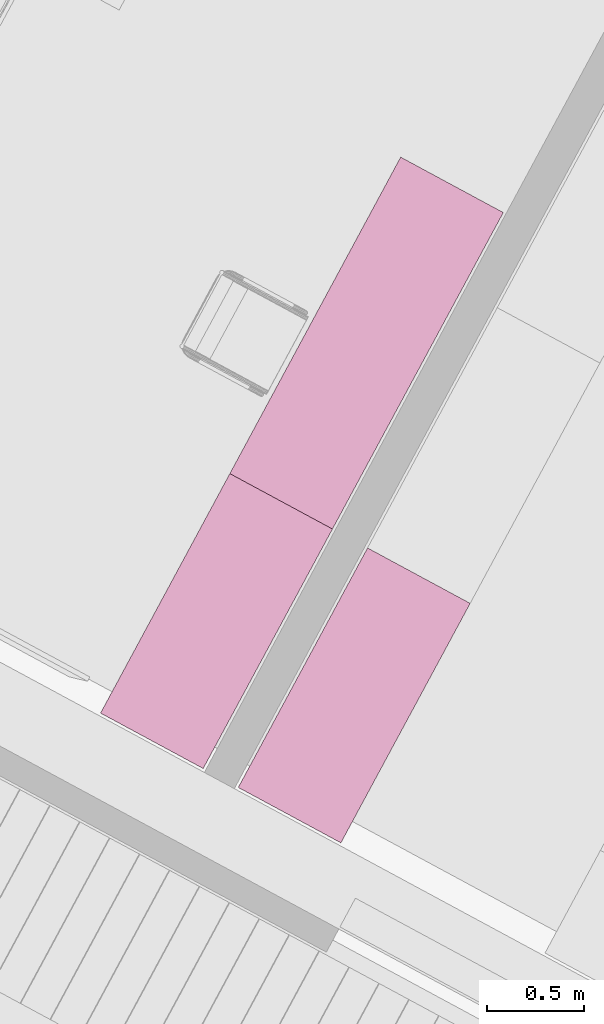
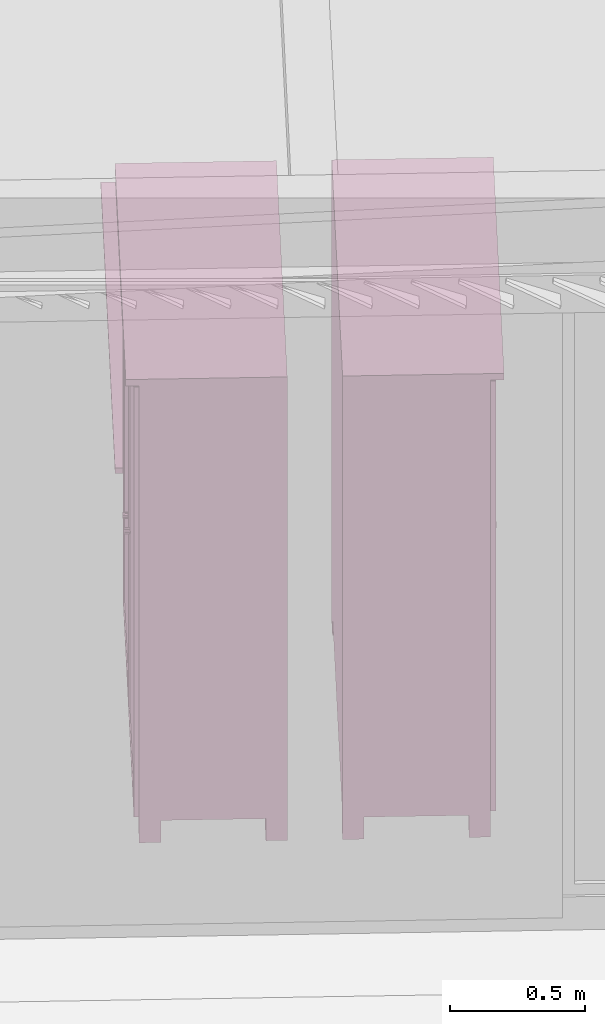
# One storey, part 28 of 48: 3 furnishings.
"""IFC2X3 building model written with IfcOpenShell, lengths in metres."""

from ifc_helpers import new_model, entity, si_unit, converted_unit, derived_unit, money_unit, direction, frame, origin_with_axes, place, context, subcontext, project, spatial, faceted_brep, type_object, element, save


model = new_model("IFC2X3")

# Units and contexts
model_context = context("Model", 3, precision=1e-05, world=origin_with_axes(), true_north=direction((0.0, 1.0)))
body_context = subcontext(model_context, "Body", "Model", "MODEL_VIEW")
ifc_project = project(units=[si_unit("LENGTHUNIT", "METRE"), si_unit("AREAUNIT", "SQUARE_METRE"), si_unit("VOLUMEUNIT", "CUBIC_METRE"), converted_unit("PLANEANGLEUNIT", "DEGREE", entity("IfcPlaneAngleMeasure", 0.0174532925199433), si_unit("PLANEANGLEUNIT", "RADIAN"), dimensions=[0, 0, 0, 0, 0, 0, 0]), money_unit("EUR"), converted_unit("TIMEUNIT", "Year", entity("IfcTimeMeasure", 31556926.0), si_unit("TIMEUNIT", "SECOND"), dimensions=[0, 0, 1, 0, 0, 0, 0]), si_unit("MASSUNIT", "GRAM", prefix="KILO"), si_unit("THERMODYNAMICTEMPERATUREUNIT", "DEGREE_CELSIUS"), si_unit("LUMINOUSINTENSITYUNIT", "LUMEN"), si_unit("ENERGYUNIT", "JOULE", prefix="MEGA"), derived_unit("THERMALCONDUCTANCEUNIT", [(si_unit("POWERUNIT", "WATT"), 1), (si_unit("LENGTHUNIT", "METRE"), -1), (si_unit("THERMODYNAMICTEMPERATUREUNIT", "KELVIN"), -1)]), derived_unit("SPECIFICHEATCAPACITYUNIT", [(si_unit("ENERGYUNIT", "JOULE"), 1), (si_unit("MASSUNIT", "GRAM", prefix="KILO"), -1), (si_unit("THERMODYNAMICTEMPERATUREUNIT", "KELVIN"), -1)]), derived_unit("MASSDENSITYUNIT", [(si_unit("MASSUNIT", "GRAM", prefix="KILO"), 1), (si_unit("VOLUMEUNIT", "CUBIC_METRE"), -1)])], contexts=[model_context])

# Site, building, storey
site_placement = place(None, frame((-3.949935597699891, 1.740105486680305, 0.0), z_axis=(0.0, 0.0, 1.0), x_axis=(0.8799804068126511, -0.475009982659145, 0.0)))
site = spatial("IfcSite", under=ifc_project, at=site_placement, Name="Gelände", CompositionType="ELEMENT")
building_placement = place(site_placement, origin_with_axes())
building = spatial("IfcBuilding", under=site, at=building_placement, Name="Gebäude", CompositionType="ELEMENT")
storey_placement = place(building_placement, frame((0.0, 0.0, 4.55), z_axis=(0.0, 0.0, 1.0), x_axis=(1.0, 0.0, 0.0)))
storey = spatial("IfcBuildingStorey", under=building, at=storey_placement, Name="Staffelgeschoss", CompositionType="ELEMENT", Elevation=4.55)

# Furnishings
furnishing_element_type_1 = type_object("IfcFurnishingElementType", Name="Kleiderschrank 22")
furnishing_1_placement = place(storey_placement, frame((10.81819561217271, 3.039987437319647, 0.0), z_axis=(0.0, 0.0, 1.0), x_axis=(0.0, -1.0, 0.0)))
element("IfcFurnishingElement", 1, at=furnishing_1_placement, inside=storey, type_object=furnishing_element_type_1, Name="Objekt-0066", context=body_context, shape_type="Brep", body=[
    faceted_brep([(0.02000000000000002, 0.6000000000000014, 0.12), (0.02000000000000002, 0.5800000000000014, 0.12), (0.02000000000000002, 0.5800000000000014, 2.05), (0.02000000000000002, 0.6000000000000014, 2.05), (1.38, 0.6000000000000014, 0.12), (1.38, 0.5800000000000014, 0.12), (1.38, 0.5800000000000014, 2.05), (1.38, 0.6000000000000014, 2.05)], [[[0, 1, 2, 3]], [[0, 4, 5, 1]], [[1, 5, 6, 2]], [[3, 2, 6, 7]], [[4, 0, 3, 7]], [[5, 4, 7, 6]]]),
    faceted_brep([(1.4, 0.05000000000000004, 0.1), (1.38, 0.05000000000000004, 0.1), (1.38, 0.6000000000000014, 0.1), (1.4, 0.6000000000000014, 0.1), (1.4, 0.05000000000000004, 2.07), (1.38, 0.05000000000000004, 2.07), (1.38, 0.6000000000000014, 2.07), (1.4, 0.6000000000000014, 2.07)], [[[0, 1, 2, 3]], [[1, 0, 4, 5]], [[2, 1, 5, 6]], [[3, 2, 6, 7]], [[0, 3, 7, 4]], [[5, 4, 7, 6]]]),
    faceted_brep([(0.02, 0.05000000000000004, 0.1), (0.0, 0.05000000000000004, 0.1), (0.0, 0.6000000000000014, 0.1), (0.02, 0.6000000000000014, 0.1), (0.02, 0.05000000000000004, 2.07), (0.0, 0.05000000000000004, 2.07), (0.0, 0.6000000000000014, 2.07), (0.02, 0.6000000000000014, 2.07)], [[[0, 1, 2, 3]], [[1, 0, 4, 5]], [[2, 1, 5, 6]], [[3, 2, 6, 7]], [[0, 3, 7, 4]], [[5, 4, 7, 6]]]),
    faceted_brep([(1.38, 0.05000000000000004, 0.1), (0.02000000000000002, 0.05000000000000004, 0.1), (0.02000000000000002, 0.6000000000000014, 0.1), (1.38, 0.6000000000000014, 0.1), (1.38, 0.05000000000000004, 0.12), (0.02000000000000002, 0.05000000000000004, 0.12), (0.02000000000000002, 0.6000000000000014, 0.12), (1.38, 0.6000000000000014, 0.12)], [[[0, 1, 2, 3]], [[1, 0, 4, 5]], [[2, 1, 5, 6]], [[3, 2, 6, 7]], [[0, 3, 7, 4]], [[5, 4, 7, 6]]]),
    faceted_brep([(1.38, 0.05000000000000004, 2.05), (0.02000000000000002, 0.05000000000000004, 2.05), (0.02000000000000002, 0.6000000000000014, 2.05), (1.38, 0.6000000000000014, 2.05), (1.38, 0.05000000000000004, 2.07), (0.02000000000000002, 0.05000000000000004, 2.07), (0.02000000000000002, 0.6000000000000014, 2.07), (1.38, 0.6000000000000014, 2.07)], [[[0, 1, 2, 3]], [[1, 0, 4, 5]], [[2, 1, 5, 6]], [[3, 2, 6, 7]], [[0, 3, 7, 4]], [[5, 4, 7, 6]]]),
    faceted_brep([(1.4, 0.6000000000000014, 2.07), (1.4, 0.6000000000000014, 2.1), (1.4, 0.0, 2.1), (1.4, 0.0, 2.07), (0.0, 0.6000000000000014, 2.07), (0.0, 0.6000000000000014, 2.1), (0.0, 0.0, 2.1), (0.0, 0.0, 2.07)], [[[0, 1, 2, 3]], [[4, 5, 1, 0]], [[1, 5, 6, 2]], [[3, 2, 6, 7]], [[0, 3, 7, 4]], [[7, 6, 5, 4]]]),
    faceted_brep([(0.08000000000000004, 0.5200000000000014, 0.0), (0.08000000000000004, 0.6000000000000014, 0.0), (0.08000000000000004, 0.6000000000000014, 0.1), (0.08000000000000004, 0.5200000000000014, 0.1), (0.0, 0.5200000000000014, 0.0), (0.0, 0.6000000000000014, 0.0), (0.0, 0.6000000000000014, 0.1), (0.0, 0.5200000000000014, 0.1)], [[[0, 1, 2, 3]], [[0, 4, 5, 1]], [[1, 5, 6, 2]], [[3, 2, 6, 7]], [[4, 0, 3, 7]], [[5, 4, 7, 6]]]),
    faceted_brep([(1.4, 0.5200000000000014, 0.0), (1.4, 0.6000000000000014, 0.0), (1.4, 0.6000000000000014, 0.1), (1.4, 0.5200000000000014, 0.1), (1.32, 0.5200000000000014, 0.0), (1.32, 0.6000000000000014, 0.0), (1.32, 0.6000000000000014, 0.1), (1.32, 0.5200000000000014, 0.1)], [[[0, 1, 2, 3]], [[0, 4, 5, 1]], [[1, 5, 6, 2]], [[3, 2, 6, 7]], [[4, 0, 3, 7]], [[5, 4, 7, 6]]]),
    faceted_brep([(0.08000000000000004, 0.05000000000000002, 0.0), (0.08000000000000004, 0.13, 0.0), (0.08000000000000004, 0.13, 0.1), (0.08000000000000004, 0.05000000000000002, 0.1), (0.0, 0.05000000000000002, 0.0), (0.0, 0.13, 0.0), (0.0, 0.13, 0.1), (0.0, 0.05000000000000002, 0.1)], [[[0, 1, 2, 3]], [[0, 4, 5, 1]], [[1, 5, 6, 2]], [[3, 2, 6, 7]], [[4, 0, 3, 7]], [[5, 4, 7, 6]]]),
    faceted_brep([(1.4, 0.05000000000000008, 0.0), (1.4, 0.1300000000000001, 0.0), (1.4, 0.1300000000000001, 0.1), (1.4, 0.05000000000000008, 0.1), (1.32, 0.05000000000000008, 0.0), (1.32, 0.1300000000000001, 0.0), (1.32, 0.1300000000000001, 0.1), (1.32, 0.05000000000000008, 0.1)], [[[0, 1, 2, 3]], [[0, 4, 5, 1]], [[1, 5, 6, 2]], [[3, 2, 6, 7]], [[4, 0, 3, 7]], [[5, 4, 7, 6]]]),
    faceted_brep([(0.6995, 0.05, 0.1104999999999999), (0.6995, 0.05000000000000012, 2.0595), (0.6995, 0.03000000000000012, 2.0595), (0.6995, 0.03, 0.1104999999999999), (0.6695, 0.05, 0.1405), (0.6695, 0.05000000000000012, 2.0295), (0.6695, 0.03000000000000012, 2.0295), (0.6695, 0.03000000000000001, 0.1405)], [[[0, 1, 2, 3]], [[0, 4, 5, 1]], [[1, 5, 6, 2]], [[3, 2, 6, 7]], [[4, 0, 3, 7]], [[5, 4, 7, 6]]]),
    faceted_brep([(0.04049999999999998, 0.05, 0.1405), (0.04049999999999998, 0.05000000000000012, 2.0295), (0.04049999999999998, 0.03000000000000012, 2.0295), (0.04049999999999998, 0.03000000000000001, 0.1405), (0.01050000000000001, 0.05, 0.1104999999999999), (0.01050000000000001, 0.05000000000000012, 2.0595), (0.01050000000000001, 0.03000000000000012, 2.0595), (0.01050000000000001, 0.03, 0.1104999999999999)], [[[0, 1, 2, 3]], [[0, 4, 5, 1]], [[1, 5, 6, 2]], [[3, 2, 6, 7]], [[4, 0, 3, 7]], [[5, 4, 7, 6]]]),
    faceted_brep([(0.01050000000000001, 0.05, 0.1104999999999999), (0.6995, 0.05, 0.1104999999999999), (0.6995, 0.03, 0.1104999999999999), (0.01050000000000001, 0.03, 0.1104999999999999), (0.04049999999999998, 0.05, 0.1405), (0.6695, 0.05, 0.1405), (0.6695, 0.03000000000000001, 0.1405), (0.04049999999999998, 0.03000000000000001, 0.1405)], [[[0, 1, 2, 3]], [[0, 4, 5, 1]], [[1, 5, 6, 2]], [[3, 2, 6, 7]], [[4, 0, 3, 7]], [[5, 4, 7, 6]]]),
    faceted_brep([(0.04049999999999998, 0.05000000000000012, 2.0295), (0.6695, 0.05000000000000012, 2.0295), (0.6695, 0.03000000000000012, 2.0295), (0.04049999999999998, 0.03000000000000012, 2.0295), (0.01050000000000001, 0.05000000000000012, 2.0595), (0.6995, 0.05000000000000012, 2.0595), (0.6995, 0.03000000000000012, 2.0595), (0.01050000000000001, 0.03000000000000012, 2.0595)], [[[0, 1, 2, 3]], [[0, 4, 5, 1]], [[1, 5, 6, 2]], [[3, 2, 6, 7]], [[4, 0, 3, 7]], [[5, 4, 7, 6]]]),
    faceted_brep([(0.6695, 0.04500000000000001, 0.1405), (0.6695, 0.04500000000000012, 2.0295), (0.6695, 0.03500000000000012, 2.0295), (0.6695, 0.035, 0.1405), (0.04049999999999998, 0.04500000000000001, 0.1405), (0.04049999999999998, 0.04500000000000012, 2.0295), (0.04049999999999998, 0.03500000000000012, 2.0295), (0.04049999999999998, 0.035, 0.1405)], [[[0, 1, 2, 3]], [[0, 4, 5, 1]], [[1, 5, 6, 2]], [[3, 2, 6, 7]], [[4, 0, 3, 7]], [[5, 4, 7, 6]]]),
    faceted_brep([(0.6593923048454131, 0.035, 0.954), (0.6549999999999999, 0.035, 0.9496076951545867), (0.6489999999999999, 0.035, 0.948), (0.6429999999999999, 0.035, 0.9496076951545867), (0.6386076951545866, 0.035, 0.954), (0.6369999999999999, 0.035, 0.96), (0.6386076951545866, 0.035, 0.966), (0.6429999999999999, 0.035, 0.9703923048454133), (0.6489999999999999, 0.035, 0.972), (0.6549999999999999, 0.035, 0.9703923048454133), (0.6593923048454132, 0.035, 0.966), (0.6609999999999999, 0.035, 0.96), (0.6593923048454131, 0.01, 0.954), (0.6549999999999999, 0.01, 0.9496076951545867), (0.6489999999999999, 0.01, 0.948), (0.6429999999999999, 0.01, 0.9496076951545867), (0.6386076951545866, 0.01, 0.954), (0.6369999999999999, 0.01, 0.96), (0.6386076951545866, 0.01, 0.966), (0.6429999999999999, 0.01, 0.9703923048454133), (0.6489999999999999, 0.01, 0.972), (0.6549999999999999, 0.01, 0.9703923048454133), (0.6593923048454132, 0.01, 0.966), (0.6609999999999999, 0.01, 0.96)], [[[0, 1, 2, 3, 4, 5, 6, 7, 8, 9, 10, 11]], [[1, 0, 12, 13]], [[2, 1, 13, 14]], [[3, 2, 14, 15]], [[4, 3, 15, 16]], [[5, 4, 16, 17]], [[6, 5, 17, 18]], [[7, 6, 18, 19]], [[8, 7, 19, 20]], [[9, 8, 20, 21]], [[10, 9, 21, 22]], [[11, 10, 22, 23]], [[0, 11, 23, 12]], [[12, 23, 22, 21, 20, 19, 18, 17, 16, 15, 14, 13]]]),
    faceted_brep([(1.3905, 0.05, 0.1104999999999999), (1.3905, 0.05000000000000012, 2.0595), (1.3905, 0.03000000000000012, 2.0595), (1.3905, 0.03, 0.1104999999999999), (1.3605, 0.05, 0.1405), (1.3605, 0.05000000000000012, 2.0295), (1.3605, 0.03000000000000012, 2.0295), (1.3605, 0.03000000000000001, 0.1405)], [[[0, 1, 2, 3]], [[0, 4, 5, 1]], [[1, 5, 6, 2]], [[3, 2, 6, 7]], [[4, 0, 3, 7]], [[5, 4, 7, 6]]]),
    faceted_brep([(0.7315, 0.05, 0.1405), (0.7315, 0.05000000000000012, 2.0295), (0.7315, 0.03000000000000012, 2.0295), (0.7315, 0.03000000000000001, 0.1405), (0.7015, 0.05, 0.1104999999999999), (0.7015, 0.05000000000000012, 2.0595), (0.7015, 0.03000000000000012, 2.0595), (0.7015, 0.03, 0.1104999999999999)], [[[0, 1, 2, 3]], [[0, 4, 5, 1]], [[1, 5, 6, 2]], [[3, 2, 6, 7]], [[4, 0, 3, 7]], [[5, 4, 7, 6]]]),
    faceted_brep([(0.7015, 0.05, 0.1104999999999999), (1.3905, 0.05, 0.1104999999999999), (1.3905, 0.03, 0.1104999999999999), (0.7015, 0.03, 0.1104999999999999), (0.7315, 0.05, 0.1405), (1.3605, 0.05, 0.1405), (1.3605, 0.03000000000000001, 0.1405), (0.7315, 0.03000000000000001, 0.1405)], [[[0, 1, 2, 3]], [[0, 4, 5, 1]], [[1, 5, 6, 2]], [[3, 2, 6, 7]], [[4, 0, 3, 7]], [[5, 4, 7, 6]]]),
    faceted_brep([(0.7315, 0.05000000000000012, 2.0295), (1.3605, 0.05000000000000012, 2.0295), (1.3605, 0.03000000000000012, 2.0295), (0.7315, 0.03000000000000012, 2.0295), (0.7015, 0.05000000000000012, 2.0595), (1.3905, 0.05000000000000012, 2.0595), (1.3905, 0.03000000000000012, 2.0595), (0.7015, 0.03000000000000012, 2.0595)], [[[0, 1, 2, 3]], [[0, 4, 5, 1]], [[1, 5, 6, 2]], [[3, 2, 6, 7]], [[4, 0, 3, 7]], [[5, 4, 7, 6]]]),
    faceted_brep([(1.3605, 0.04500000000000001, 0.1405), (1.3605, 0.04500000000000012, 2.0295), (1.3605, 0.04000000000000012, 2.0295), (1.3605, 0.04000000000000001, 0.1405), (0.7315, 0.04500000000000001, 0.1405), (0.7315, 0.04500000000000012, 2.0295), (0.7315, 0.04000000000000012, 2.0295), (0.7315, 0.04000000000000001, 0.1405)], [[[0, 1, 2, 3]], [[0, 4, 5, 1]], [[1, 5, 6, 2]], [[3, 2, 6, 7]], [[4, 0, 3, 7]], [[5, 4, 7, 6]]]),
    faceted_brep([(1.3605, 0.04000000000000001, 0.1405), (1.3605, 0.04000000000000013, 2.0295), (1.3605, 0.03500000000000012, 2.0295), (1.3605, 0.03500000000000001, 0.1405), (0.7315, 0.04000000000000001, 0.1405), (0.7315, 0.04000000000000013, 2.0295), (0.7315, 0.03500000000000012, 2.0295), (0.7315, 0.03500000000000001, 0.1405)], [[[0, 1, 2, 3]], [[0, 4, 5, 1]], [[1, 5, 6, 2]], [[3, 2, 6, 7]], [[4, 0, 3, 7]], [[5, 4, 7, 6]]]),
    faceted_brep([(0.7406076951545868, 0.035, 0.954), (0.739, 0.035, 0.96), (0.7406076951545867, 0.035, 0.966), (0.745, 0.035, 0.9703923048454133), (0.751, 0.035, 0.972), (0.757, 0.035, 0.9703923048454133), (0.7613923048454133, 0.035, 0.966), (0.763, 0.035, 0.96), (0.7613923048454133, 0.035, 0.954), (0.757, 0.035, 0.9496076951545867), (0.751, 0.035, 0.948), (0.745, 0.035, 0.9496076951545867), (0.7406076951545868, 0.01, 0.954), (0.739, 0.01, 0.96), (0.7406076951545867, 0.01, 0.966), (0.745, 0.01, 0.9703923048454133), (0.751, 0.01, 0.972), (0.757, 0.01, 0.9703923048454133), (0.7613923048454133, 0.01, 0.966), (0.763, 0.01, 0.96), (0.7613923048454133, 0.01, 0.954), (0.757, 0.01, 0.9496076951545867), (0.751, 0.01, 0.948), (0.745, 0.01, 0.9496076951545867)], [[[0, 1, 2, 3, 4, 5, 6, 7, 8, 9, 10, 11]], [[0, 12, 13, 1]], [[1, 13, 14, 2]], [[2, 14, 15, 3]], [[3, 15, 16, 4]], [[4, 16, 17, 5]], [[5, 17, 18, 6]], [[6, 18, 19, 7]], [[7, 19, 20, 8]], [[8, 20, 21, 9]], [[9, 21, 22, 10]], [[10, 22, 23, 11]], [[11, 23, 12, 0]], [[12, 23, 22, 21, 20, 19, 18, 17, 16, 15, 14, 13]]]),
])
furnishing_2_placement = place(storey_placement, frame((12.22319561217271, 3.039987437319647, 0.0), z_axis=(0.0, 0.0, 1.0), x_axis=(0.0, 1.0, 0.0)))
element("IfcFurnishingElement", 2, at=furnishing_2_placement, inside=storey, type_object=furnishing_element_type_1, Name="Objekt-0066", context=body_context, shape_type="Brep", body=[
    faceted_brep([(-0.02000000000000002, 0.6000000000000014, 0.12), (-0.02000000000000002, 0.6000000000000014, 2.05), (-0.02000000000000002, 0.5800000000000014, 2.05), (-0.02000000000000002, 0.5800000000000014, 0.12), (-1.38, 0.6000000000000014, 0.12), (-1.38, 0.6000000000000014, 2.05), (-1.38, 0.5800000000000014, 2.05), (-1.38, 0.5800000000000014, 0.12)], [[[0, 1, 2, 3]], [[4, 5, 1, 0]], [[1, 5, 6, 2]], [[3, 2, 6, 7]], [[0, 3, 7, 4]], [[7, 6, 5, 4]]]),
    faceted_brep([(-1.4, 0.05000000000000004, 0.1), (-1.4, 0.6000000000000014, 0.1), (-1.38, 0.6000000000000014, 0.1), (-1.38, 0.05000000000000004, 0.1), (-1.4, 0.05000000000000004, 2.07), (-1.4, 0.6000000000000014, 2.07), (-1.38, 0.6000000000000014, 2.07), (-1.38, 0.05000000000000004, 2.07)], [[[0, 1, 2, 3]], [[0, 4, 5, 1]], [[1, 5, 6, 2]], [[2, 6, 7, 3]], [[3, 7, 4, 0]], [[7, 6, 5, 4]]]),
    faceted_brep([(-0.02, 0.05000000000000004, 0.1), (-0.02, 0.6000000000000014, 0.1), (0.0, 0.6000000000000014, 0.1), (0.0, 0.05000000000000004, 0.1), (-0.02, 0.05000000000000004, 2.07), (-0.02, 0.6000000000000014, 2.07), (0.0, 0.6000000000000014, 2.07), (0.0, 0.05000000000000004, 2.07)], [[[0, 1, 2, 3]], [[0, 4, 5, 1]], [[1, 5, 6, 2]], [[2, 6, 7, 3]], [[3, 7, 4, 0]], [[7, 6, 5, 4]]]),
    faceted_brep([(-1.38, 0.05000000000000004, 0.1), (-1.38, 0.6000000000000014, 0.1), (-0.02000000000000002, 0.6000000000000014, 0.1), (-0.02000000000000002, 0.05000000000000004, 0.1), (-1.38, 0.05000000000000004, 0.12), (-1.38, 0.6000000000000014, 0.12), (-0.02000000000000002, 0.6000000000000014, 0.12), (-0.02000000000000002, 0.05000000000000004, 0.12)], [[[0, 1, 2, 3]], [[0, 4, 5, 1]], [[1, 5, 6, 2]], [[2, 6, 7, 3]], [[3, 7, 4, 0]], [[7, 6, 5, 4]]]),
    faceted_brep([(-1.38, 0.05000000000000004, 2.05), (-1.38, 0.6000000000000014, 2.05), (-0.02000000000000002, 0.6000000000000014, 2.05), (-0.02000000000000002, 0.05000000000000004, 2.05), (-1.38, 0.05000000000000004, 2.07), (-1.38, 0.6000000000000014, 2.07), (-0.02000000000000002, 0.6000000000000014, 2.07), (-0.02000000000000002, 0.05000000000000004, 2.07)], [[[0, 1, 2, 3]], [[0, 4, 5, 1]], [[1, 5, 6, 2]], [[2, 6, 7, 3]], [[3, 7, 4, 0]], [[7, 6, 5, 4]]]),
    faceted_brep([(-1.4, 0.6000000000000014, 2.07), (-1.4, 0.0, 2.07), (-1.4, 0.0, 2.1), (-1.4, 0.6000000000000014, 2.1), (0.0, 0.6000000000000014, 2.07), (0.0, 0.0, 2.07), (0.0, 0.0, 2.1), (0.0, 0.6000000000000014, 2.1)], [[[0, 1, 2, 3]], [[0, 4, 5, 1]], [[1, 5, 6, 2]], [[3, 2, 6, 7]], [[4, 0, 3, 7]], [[5, 4, 7, 6]]]),
    faceted_brep([(-0.08000000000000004, 0.5200000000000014, 0.0), (-0.08000000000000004, 0.5200000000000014, 0.1), (-0.08000000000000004, 0.6000000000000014, 0.1), (-0.08000000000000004, 0.6000000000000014, 0.0), (0.0, 0.5200000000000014, 0.0), (0.0, 0.5200000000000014, 0.1), (0.0, 0.6000000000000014, 0.1), (0.0, 0.6000000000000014, 0.0)], [[[0, 1, 2, 3]], [[4, 5, 1, 0]], [[1, 5, 6, 2]], [[3, 2, 6, 7]], [[0, 3, 7, 4]], [[7, 6, 5, 4]]]),
    faceted_brep([(-1.4, 0.5200000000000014, 0.0), (-1.4, 0.5200000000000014, 0.1), (-1.4, 0.6000000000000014, 0.1), (-1.4, 0.6000000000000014, 0.0), (-1.32, 0.5200000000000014, 0.0), (-1.32, 0.5200000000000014, 0.1), (-1.32, 0.6000000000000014, 0.1), (-1.32, 0.6000000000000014, 0.0)], [[[0, 1, 2, 3]], [[4, 5, 1, 0]], [[1, 5, 6, 2]], [[3, 2, 6, 7]], [[0, 3, 7, 4]], [[7, 6, 5, 4]]]),
    faceted_brep([(-0.08000000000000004, 0.05000000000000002, 0.0), (-0.08000000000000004, 0.05000000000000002, 0.1), (-0.08000000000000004, 0.13, 0.1), (-0.08000000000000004, 0.13, 0.0), (0.0, 0.05000000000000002, 0.0), (0.0, 0.05000000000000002, 0.1), (0.0, 0.13, 0.1), (0.0, 0.13, 0.0)], [[[0, 1, 2, 3]], [[4, 5, 1, 0]], [[1, 5, 6, 2]], [[3, 2, 6, 7]], [[0, 3, 7, 4]], [[7, 6, 5, 4]]]),
    faceted_brep([(-1.4, 0.05000000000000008, 0.0), (-1.4, 0.05000000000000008, 0.1), (-1.4, 0.1300000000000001, 0.1), (-1.4, 0.1300000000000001, 0.0), (-1.32, 0.05000000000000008, 0.0), (-1.32, 0.05000000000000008, 0.1), (-1.32, 0.1300000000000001, 0.1), (-1.32, 0.1300000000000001, 0.0)], [[[0, 1, 2, 3]], [[4, 5, 1, 0]], [[1, 5, 6, 2]], [[3, 2, 6, 7]], [[0, 3, 7, 4]], [[7, 6, 5, 4]]]),
    faceted_brep([(-0.6995000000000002, 0.05, 0.1104999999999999), (-0.6995000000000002, 0.03, 0.1104999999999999), (-0.6995000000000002, 0.03000000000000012, 2.0595), (-0.6995000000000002, 0.05000000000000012, 2.0595), (-0.6695000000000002, 0.05, 0.1405), (-0.6695000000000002, 0.03000000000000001, 0.1405), (-0.6695000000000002, 0.03000000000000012, 2.0295), (-0.6695000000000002, 0.05000000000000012, 2.0295)], [[[0, 1, 2, 3]], [[4, 5, 1, 0]], [[1, 5, 6, 2]], [[3, 2, 6, 7]], [[0, 3, 7, 4]], [[7, 6, 5, 4]]]),
    faceted_brep([(-0.04049999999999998, 0.05, 0.1405), (-0.04049999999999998, 0.03000000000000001, 0.1405), (-0.04049999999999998, 0.03000000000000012, 2.0295), (-0.04049999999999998, 0.05000000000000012, 2.0295), (-0.01050000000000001, 0.05, 0.1104999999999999), (-0.01050000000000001, 0.03, 0.1104999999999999), (-0.01050000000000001, 0.03000000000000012, 2.0595), (-0.01050000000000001, 0.05000000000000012, 2.0595)], [[[0, 1, 2, 3]], [[4, 5, 1, 0]], [[1, 5, 6, 2]], [[3, 2, 6, 7]], [[0, 3, 7, 4]], [[7, 6, 5, 4]]]),
    faceted_brep([(-0.01050000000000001, 0.05, 0.1104999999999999), (-0.01050000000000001, 0.03, 0.1104999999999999), (-0.6995000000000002, 0.03, 0.1104999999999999), (-0.6995000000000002, 0.05, 0.1104999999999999), (-0.04049999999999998, 0.05, 0.1405), (-0.04049999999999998, 0.03000000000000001, 0.1405), (-0.6695000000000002, 0.03000000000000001, 0.1405), (-0.6695000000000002, 0.05, 0.1405)], [[[0, 1, 2, 3]], [[4, 5, 1, 0]], [[1, 5, 6, 2]], [[3, 2, 6, 7]], [[0, 3, 7, 4]], [[7, 6, 5, 4]]]),
    faceted_brep([(-0.04049999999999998, 0.05000000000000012, 2.0295), (-0.04049999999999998, 0.03000000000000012, 2.0295), (-0.6695000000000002, 0.03000000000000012, 2.0295), (-0.6695000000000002, 0.05000000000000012, 2.0295), (-0.01050000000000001, 0.05000000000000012, 2.0595), (-0.01050000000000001, 0.03000000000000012, 2.0595), (-0.6995000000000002, 0.03000000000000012, 2.0595), (-0.6995000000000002, 0.05000000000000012, 2.0595)], [[[0, 1, 2, 3]], [[4, 5, 1, 0]], [[1, 5, 6, 2]], [[3, 2, 6, 7]], [[0, 3, 7, 4]], [[7, 6, 5, 4]]]),
    faceted_brep([(-0.6695000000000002, 0.04500000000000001, 0.1405), (-0.6695000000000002, 0.035, 0.1405), (-0.6695000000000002, 0.03500000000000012, 2.0295), (-0.6695000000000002, 0.04500000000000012, 2.0295), (-0.04049999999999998, 0.04500000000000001, 0.1405), (-0.04049999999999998, 0.035, 0.1405), (-0.04049999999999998, 0.03500000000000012, 2.0295), (-0.04049999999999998, 0.04500000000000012, 2.0295)], [[[0, 1, 2, 3]], [[4, 5, 1, 0]], [[1, 5, 6, 2]], [[3, 2, 6, 7]], [[0, 3, 7, 4]], [[7, 6, 5, 4]]]),
    faceted_brep([(-0.6593923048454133, 0.035, 0.954), (-0.6610000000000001, 0.035, 0.96), (-0.6593923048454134, 0.035, 0.966), (-0.6550000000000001, 0.035, 0.9703923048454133), (-0.6490000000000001, 0.035, 0.972), (-0.6430000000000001, 0.035, 0.9703923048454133), (-0.6386076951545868, 0.035, 0.966), (-0.6370000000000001, 0.035, 0.96), (-0.6386076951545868, 0.035, 0.954), (-0.6430000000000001, 0.035, 0.9496076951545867), (-0.6490000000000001, 0.035, 0.948), (-0.6550000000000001, 0.035, 0.9496076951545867), (-0.6593923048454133, 0.01, 0.954), (-0.6610000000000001, 0.01, 0.96), (-0.6593923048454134, 0.01, 0.966), (-0.6550000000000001, 0.01, 0.9703923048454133), (-0.6490000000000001, 0.01, 0.972), (-0.6430000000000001, 0.01, 0.9703923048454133), (-0.6386076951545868, 0.01, 0.966), (-0.6370000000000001, 0.01, 0.96), (-0.6386076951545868, 0.01, 0.954), (-0.6430000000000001, 0.01, 0.9496076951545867), (-0.6490000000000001, 0.01, 0.948), (-0.6550000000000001, 0.01, 0.9496076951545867)], [[[0, 1, 2, 3, 4, 5, 6, 7, 8, 9, 10, 11]], [[0, 12, 13, 1]], [[1, 13, 14, 2]], [[2, 14, 15, 3]], [[3, 15, 16, 4]], [[4, 16, 17, 5]], [[5, 17, 18, 6]], [[6, 18, 19, 7]], [[7, 19, 20, 8]], [[8, 20, 21, 9]], [[9, 21, 22, 10]], [[10, 22, 23, 11]], [[11, 23, 12, 0]], [[12, 23, 22, 21, 20, 19, 18, 17, 16, 15, 14, 13]]]),
    faceted_brep([(-1.3905, 0.05, 0.1104999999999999), (-1.3905, 0.03, 0.1104999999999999), (-1.3905, 0.03000000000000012, 2.0595), (-1.3905, 0.05000000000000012, 2.0595), (-1.3605, 0.05, 0.1405), (-1.3605, 0.03000000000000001, 0.1405), (-1.3605, 0.03000000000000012, 2.0295), (-1.3605, 0.05000000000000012, 2.0295)], [[[0, 1, 2, 3]], [[4, 5, 1, 0]], [[1, 5, 6, 2]], [[3, 2, 6, 7]], [[0, 3, 7, 4]], [[7, 6, 5, 4]]]),
    faceted_brep([(-0.7315000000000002, 0.05, 0.1405), (-0.7315000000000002, 0.03000000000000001, 0.1405), (-0.7315000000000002, 0.03000000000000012, 2.0295), (-0.7315000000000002, 0.05000000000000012, 2.0295), (-0.7015000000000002, 0.05, 0.1104999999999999), (-0.7015000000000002, 0.03, 0.1104999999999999), (-0.7015000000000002, 0.03000000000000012, 2.0595), (-0.7015000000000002, 0.05000000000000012, 2.0595)], [[[0, 1, 2, 3]], [[4, 5, 1, 0]], [[1, 5, 6, 2]], [[3, 2, 6, 7]], [[0, 3, 7, 4]], [[7, 6, 5, 4]]]),
    faceted_brep([(-0.7015000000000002, 0.05, 0.1104999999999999), (-0.7015000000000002, 0.03, 0.1104999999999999), (-1.3905, 0.03, 0.1104999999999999), (-1.3905, 0.05, 0.1104999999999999), (-0.7315000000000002, 0.05, 0.1405), (-0.7315000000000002, 0.03000000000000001, 0.1405), (-1.3605, 0.03000000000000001, 0.1405), (-1.3605, 0.05, 0.1405)], [[[0, 1, 2, 3]], [[4, 5, 1, 0]], [[1, 5, 6, 2]], [[3, 2, 6, 7]], [[0, 3, 7, 4]], [[7, 6, 5, 4]]]),
    faceted_brep([(-0.7315000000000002, 0.05000000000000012, 2.0295), (-0.7315000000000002, 0.03000000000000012, 2.0295), (-1.3605, 0.03000000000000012, 2.0295), (-1.3605, 0.05000000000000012, 2.0295), (-0.7015000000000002, 0.05000000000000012, 2.0595), (-0.7015000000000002, 0.03000000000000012, 2.0595), (-1.3905, 0.03000000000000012, 2.0595), (-1.3905, 0.05000000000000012, 2.0595)], [[[0, 1, 2, 3]], [[4, 5, 1, 0]], [[1, 5, 6, 2]], [[3, 2, 6, 7]], [[0, 3, 7, 4]], [[7, 6, 5, 4]]]),
    faceted_brep([(-1.3605, 0.04500000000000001, 0.1405), (-1.3605, 0.04000000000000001, 0.1405), (-1.3605, 0.04000000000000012, 2.0295), (-1.3605, 0.04500000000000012, 2.0295), (-0.7315000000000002, 0.04500000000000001, 0.1405), (-0.7315000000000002, 0.04000000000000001, 0.1405), (-0.7315000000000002, 0.04000000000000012, 2.0295), (-0.7315000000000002, 0.04500000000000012, 2.0295)], [[[0, 1, 2, 3]], [[4, 5, 1, 0]], [[1, 5, 6, 2]], [[3, 2, 6, 7]], [[0, 3, 7, 4]], [[7, 6, 5, 4]]]),
    faceted_brep([(-1.3605, 0.04000000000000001, 0.1405), (-1.3605, 0.03500000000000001, 0.1405), (-1.3605, 0.03500000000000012, 2.0295), (-1.3605, 0.04000000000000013, 2.0295), (-0.7315000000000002, 0.04000000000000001, 0.1405), (-0.7315000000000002, 0.03500000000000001, 0.1405), (-0.7315000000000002, 0.03500000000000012, 2.0295), (-0.7315000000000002, 0.04000000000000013, 2.0295)], [[[0, 1, 2, 3]], [[4, 5, 1, 0]], [[1, 5, 6, 2]], [[3, 2, 6, 7]], [[0, 3, 7, 4]], [[7, 6, 5, 4]]]),
    faceted_brep([(-0.740607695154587, 0.035, 0.954), (-0.7450000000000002, 0.035, 0.9496076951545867), (-0.7510000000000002, 0.035, 0.948), (-0.7570000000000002, 0.035, 0.9496076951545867), (-0.7613923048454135, 0.035, 0.954), (-0.7630000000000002, 0.035, 0.96), (-0.7613923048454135, 0.035, 0.966), (-0.7570000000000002, 0.035, 0.9703923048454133), (-0.7510000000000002, 0.035, 0.972), (-0.7450000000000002, 0.035, 0.9703923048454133), (-0.7406076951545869, 0.035, 0.966), (-0.7390000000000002, 0.035, 0.96), (-0.740607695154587, 0.01, 0.954), (-0.7450000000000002, 0.01, 0.9496076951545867), (-0.7510000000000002, 0.01, 0.948), (-0.7570000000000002, 0.01, 0.9496076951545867), (-0.7613923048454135, 0.01, 0.954), (-0.7630000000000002, 0.01, 0.96), (-0.7613923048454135, 0.01, 0.966), (-0.7570000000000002, 0.01, 0.9703923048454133), (-0.7510000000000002, 0.01, 0.972), (-0.7450000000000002, 0.01, 0.9703923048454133), (-0.7406076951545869, 0.01, 0.966), (-0.7390000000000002, 0.01, 0.96)], [[[0, 1, 2, 3, 4, 5, 6, 7, 8, 9, 10, 11]], [[1, 0, 12, 13]], [[2, 1, 13, 14]], [[3, 2, 14, 15]], [[4, 3, 15, 16]], [[5, 4, 16, 17]], [[6, 5, 17, 18]], [[7, 6, 18, 19]], [[8, 7, 19, 20]], [[9, 8, 20, 21]], [[10, 9, 21, 22]], [[11, 10, 22, 23]], [[0, 11, 23, 12]], [[12, 23, 22, 21, 20, 19, 18, 17, 16, 15, 14, 13]]]),
])
furnishing_element_type_2 = type_object("IfcFurnishingElementType", Name="Schreibtisch 22")
furnishing_3_placement = place(storey_placement, frame((10.81819561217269, 3.039987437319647, 0.0), z_axis=(0.0, 0.0, 1.0), x_axis=(0.0, -1.0, 0.0)))
element("IfcFurnishingElement", 3, at=furnishing_3_placement, inside=storey, type_object=furnishing_element_type_2, Name="Objekt-0068", context=body_context, shape_type="Brep", body=[
    faceted_brep([(-0.02, 0.1500000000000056, 0.0), (-0.02, 0.6000000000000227, 0.0), (0.0, 0.6000000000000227, 0.0), (0.0, 0.1500000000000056, 0.0), (-0.02, 0.1500000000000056, 0.695), (-0.02, 0.6000000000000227, 0.695), (0.0, 0.6000000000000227, 0.695), (0.0, 0.1500000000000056, 0.695)], [[[0, 1, 2, 3]], [[0, 4, 5, 1]], [[1, 5, 6, 2]], [[2, 6, 7, 3]], [[3, 7, 4, 0]], [[7, 6, 5, 4]]]),
    faceted_brep([(-1.85, 0.1500000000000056, 0.0), (-1.85, 0.6000000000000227, 0.0), (-1.83, 0.6000000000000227, 0.0), (-1.83, 0.1500000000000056, 0.0), (-1.85, 0.1500000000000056, 0.695), (-1.85, 0.6000000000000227, 0.695), (-1.83, 0.6000000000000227, 0.695), (-1.83, 0.1500000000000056, 0.695)], [[[0, 1, 2, 3]], [[0, 4, 5, 1]], [[1, 5, 6, 2]], [[2, 6, 7, 3]], [[3, 7, 4, 0]], [[7, 6, 5, 4]]]),
    faceted_brep([(-1.85, 0.0, 0.695), (-1.85, 0.6000000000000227, 0.695), (0.0, 0.6000000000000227, 0.695), (0.0, 0.0, 0.695), (-1.85, 0.0, 0.72), (-1.85, 0.6000000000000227, 0.72), (0.0, 0.6000000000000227, 0.72), (0.0, 0.0, 0.72)], [[[0, 1, 2, 3]], [[0, 4, 5, 1]], [[1, 5, 6, 2]], [[2, 6, 7, 3]], [[3, 7, 4, 0]], [[7, 6, 5, 4]]]),
    faceted_brep([(-1.83, 0.5800000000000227, 0.36), (-1.83, 0.6000000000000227, 0.36), (-0.02000000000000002, 0.6000000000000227, 0.36), (-0.02000000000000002, 0.5800000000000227, 0.36), (-1.83, 0.5800000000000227, 0.6950000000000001), (-1.83, 0.6000000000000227, 0.6950000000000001), (-0.02000000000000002, 0.6000000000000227, 0.6950000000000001), (-0.02000000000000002, 0.5800000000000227, 0.6950000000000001)], [[[0, 1, 2, 3]], [[0, 4, 5, 1]], [[1, 5, 6, 2]], [[2, 6, 7, 3]], [[3, 7, 4, 0]], [[7, 6, 5, 4]]]),
])

save(model, "model.ifc")
